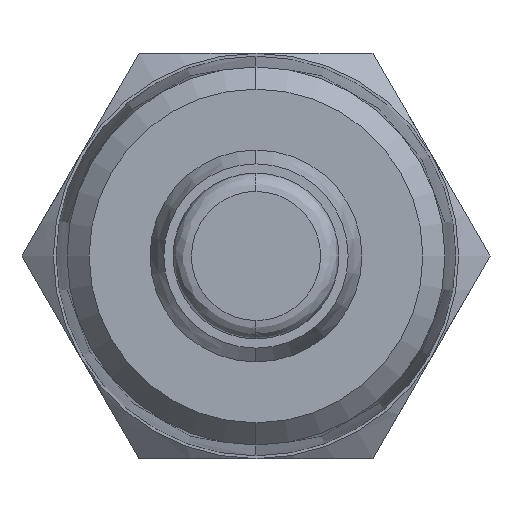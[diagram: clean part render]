
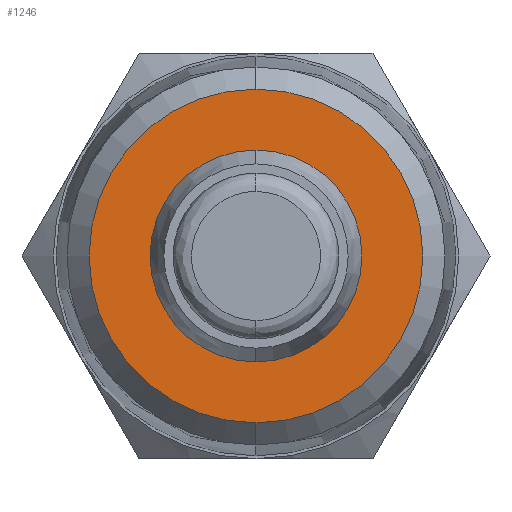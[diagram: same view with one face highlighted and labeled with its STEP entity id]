
A CAD part, left-side view. The second image highlights one B-rep face of the part: STEP entity #1246.
In plain terms, the highlighted planar face has unit normal (-1, 0, 0).
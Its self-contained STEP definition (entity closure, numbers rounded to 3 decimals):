
#29 = DIRECTION ( 'NONE',  ( 0., 0., -1. ) ) ;
#61 = DIRECTION ( 'NONE',  ( -1., 0., 0. ) ) ;
#90 = ORIENTED_EDGE ( 'NONE', *, *, #1562, .F. ) ;
#105 = DIRECTION ( 'NONE',  ( -1., 0., 0. ) ) ;
#132 = CIRCLE ( 'NONE', #294, 9.059 ) ;
#152 = DIRECTION ( 'NONE',  ( -1., 0., 0. ) ) ;
#191 = PLANE ( 'NONE',  #851 ) ;
#213 = ORIENTED_EDGE ( 'NONE', *, *, #1492, .F. ) ;
#294 = AXIS2_PLACEMENT_3D ( 'NONE', #1003, #105, #1162 ) ;
#337 = DIRECTION ( 'NONE',  ( 0., 0., 1. ) ) ;
#369 = ORIENTED_EDGE ( 'NONE', *, *, #1423, .T. ) ;
#542 = VERTEX_POINT ( 'NONE', #1266 ) ;
#758 = FACE_BOUND ( 'NONE', #1035, .T. ) ;
#784 = CIRCLE ( 'NONE', #1111, 5.75 ) ;
#823 = CARTESIAN_POINT ( 'NONE',  ( -87.5, 0., -9.059 ) ) ;
#851 = AXIS2_PLACEMENT_3D ( 'NONE', #943, #1869, #337 ) ;
#870 = VERTEX_POINT ( 'NONE', #823 ) ;
#904 = CARTESIAN_POINT ( 'NONE',  ( -87.5, 0., 9.059 ) ) ;
#941 = DIRECTION ( 'NONE',  ( -1., 0., 0. ) ) ;
#943 = CARTESIAN_POINT ( 'NONE',  ( -87.5, 4.53, 0. ) ) ;
#966 = CARTESIAN_POINT ( 'NONE',  ( -87.5, 0., 0. ) ) ;
#1003 = CARTESIAN_POINT ( 'NONE',  ( -87.5, 0., 0. ) ) ;
#1029 = VERTEX_POINT ( 'NONE', #1340 ) ;
#1035 = EDGE_LOOP ( 'NONE', ( #90, #213 ) ) ;
#1050 = CARTESIAN_POINT ( 'NONE',  ( -87.5, 0., 0. ) ) ;
#1111 = AXIS2_PLACEMENT_3D ( 'NONE', #1866, #941, #29 ) ;
#1124 = DIRECTION ( 'NONE',  ( 0., 0., -1. ) ) ;
#1162 = DIRECTION ( 'NONE',  ( 0., 0., -1. ) ) ;
#1206 = DIRECTION ( 'NONE',  ( 0., 0., -1. ) ) ;
#1246 = ADVANCED_FACE ( 'NONE', ( #758, #1431 ), #191, .T. ) ;
#1266 = CARTESIAN_POINT ( 'NONE',  ( -87.5, 0., -5.75 ) ) ;
#1340 = CARTESIAN_POINT ( 'NONE',  ( -87.5, 0., 5.75 ) ) ;
#1343 = ORIENTED_EDGE ( 'NONE', *, *, #1909, .T. ) ;
#1423 = EDGE_CURVE ( 'NONE', #1952, #870, #132, .T. ) ;
#1431 = FACE_OUTER_BOUND ( 'NONE', #1779, .T. ) ;
#1471 = CIRCLE ( 'NONE', #1727, 9.059 ) ;
#1492 = EDGE_CURVE ( 'NONE', #1029, #542, #784, .T. ) ;
#1502 = CIRCLE ( 'NONE', #1632, 5.75 ) ;
#1562 = EDGE_CURVE ( 'NONE', #542, #1029, #1502, .T. ) ;
#1632 = AXIS2_PLACEMENT_3D ( 'NONE', #966, #61, #1124 ) ;
#1727 = AXIS2_PLACEMENT_3D ( 'NONE', #1050, #152, #1206 ) ;
#1779 = EDGE_LOOP ( 'NONE', ( #1343, #369 ) ) ;
#1866 = CARTESIAN_POINT ( 'NONE',  ( -87.5, 0., 0. ) ) ;
#1869 = DIRECTION ( 'NONE',  ( -1., 0., 0. ) ) ;
#1909 = EDGE_CURVE ( 'NONE', #870, #1952, #1471, .T. ) ;
#1952 = VERTEX_POINT ( 'NONE', #904 ) ;
